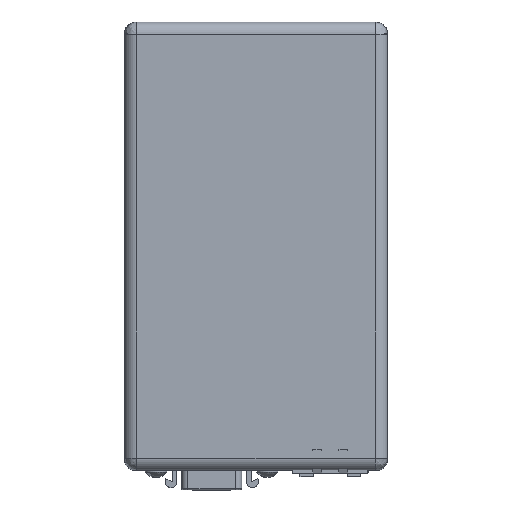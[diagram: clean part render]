
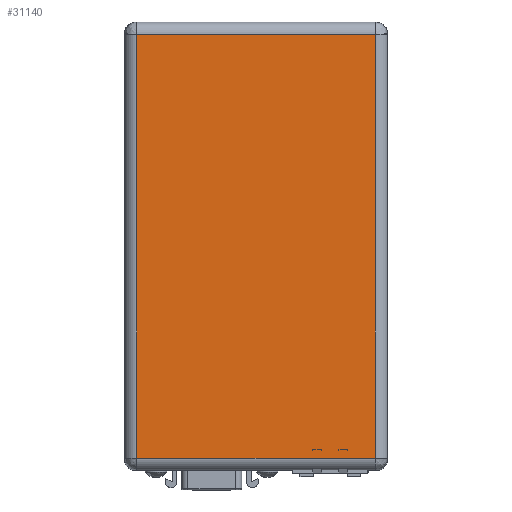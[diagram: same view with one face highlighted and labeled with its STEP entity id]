
A CAD part, top view. The second image highlights one B-rep face of the part: STEP entity #31140.
In plain terms, the highlighted planar face has unit normal (0, 0, 1).
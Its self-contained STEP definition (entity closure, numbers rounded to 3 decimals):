
#745 = CARTESIAN_POINT ( 'NONE',  ( 25.298, 18.948, 15.3 ) ) ;
#760 = LINE ( 'NONE', #97535, #79004 ) ;
#6625 = ORIENTED_EDGE ( 'NONE', *, *, #158800, .T. ) ;
#7056 = VERTEX_POINT ( 'NONE', #15592 ) ;
#9669 = DIRECTION ( 'NONE',  ( 1., 0., 0. ) ) ;
#13555 = CARTESIAN_POINT ( 'NONE',  ( -25.298, 18.948, 15.3 ) ) ;
#15592 = CARTESIAN_POINT ( 'NONE',  ( 25.298, -71.018, 15.3 ) ) ;
#15709 = DIRECTION ( 'NONE',  ( -1., 0., 0. ) ) ;
#24301 = VERTEX_POINT ( 'NONE', #25589 ) ;
#25363 = AXIS2_PLACEMENT_3D ( 'NONE', #52363, #52310, #52167 ) ;
#25589 = CARTESIAN_POINT ( 'NONE',  ( -25.298, -71.018, 15.3 ) ) ;
#28884 = LINE ( 'NONE', #745, #145147 ) ;
#31140 = ADVANCED_FACE ( 'NONE', ( #61142 ), #53640, .T. ) ;
#32418 = ORIENTED_EDGE ( 'NONE', *, *, #126720, .T. ) ;
#33317 = ORIENTED_EDGE ( 'NONE', *, *, #127040, .T. ) ;
#34118 = VERTEX_POINT ( 'NONE', #50157 ) ;
#38329 = VERTEX_POINT ( 'NONE', #144574 ) ;
#39174 = VECTOR ( 'NONE', #130587, 1000. ) ;
#42331 = CARTESIAN_POINT ( 'NONE',  ( 25.298, 18.948, 15.3 ) ) ;
#50157 = CARTESIAN_POINT ( 'NONE',  ( -25.298, 18.948, 15.3 ) ) ;
#52167 = DIRECTION ( 'NONE',  ( 1., 0., 0. ) ) ;
#52310 = DIRECTION ( 'NONE',  ( 0., 0., 1. ) ) ;
#52363 = CARTESIAN_POINT ( 'NONE',  ( 25.298, 18.948, 15.3 ) ) ;
#53640 = PLANE ( 'NONE',  #25363 ) ;
#61142 = FACE_OUTER_BOUND ( 'NONE', #162360, .T. ) ;
#79004 = VECTOR ( 'NONE', #9669, 1000. ) ;
#86437 = DIRECTION ( 'NONE',  ( 0., 1., 0. ) ) ;
#97535 = CARTESIAN_POINT ( 'NONE',  ( 25.298, -71.018, 15.3 ) ) ;
#116775 = LINE ( 'NONE', #13555, #39174 ) ;
#126720 = EDGE_CURVE ( 'NONE', #38329, #34118, #28884, .T. ) ;
#127040 = EDGE_CURVE ( 'NONE', #24301, #7056, #760, .T. ) ;
#130587 = DIRECTION ( 'NONE',  ( 0., -1., 0. ) ) ;
#139039 = LINE ( 'NONE', #42331, #172832 ) ;
#144574 = CARTESIAN_POINT ( 'NONE',  ( 25.298, 18.948, 15.3 ) ) ;
#145147 = VECTOR ( 'NONE', #15709, 1000. ) ;
#148187 = ORIENTED_EDGE ( 'NONE', *, *, #165631, .T. ) ;
#158800 = EDGE_CURVE ( 'NONE', #7056, #38329, #139039, .T. ) ;
#162360 = EDGE_LOOP ( 'NONE', ( #148187, #33317, #6625, #32418 ) ) ;
#165631 = EDGE_CURVE ( 'NONE', #34118, #24301, #116775, .T. ) ;
#172832 = VECTOR ( 'NONE', #86437, 1000. ) ;
